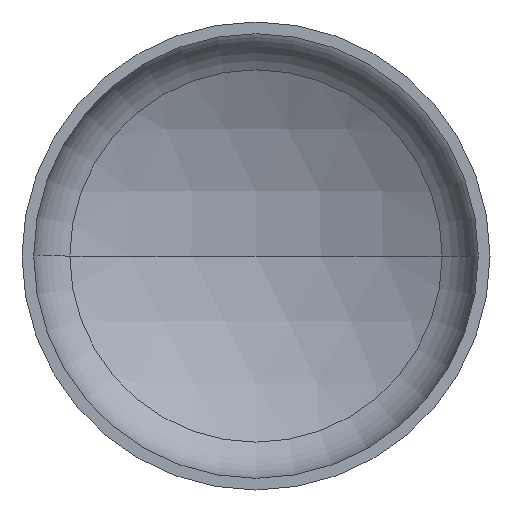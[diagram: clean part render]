
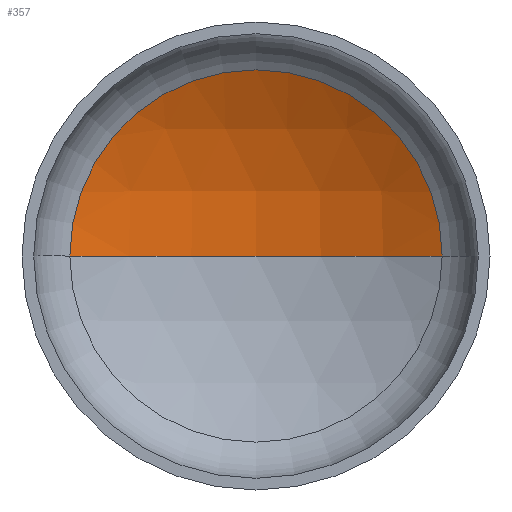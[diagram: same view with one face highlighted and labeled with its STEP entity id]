
A CAD part, front view. The second image highlights one B-rep face of the part: STEP entity #357.
In plain terms, the highlighted spherical face has radius 1120 mm.
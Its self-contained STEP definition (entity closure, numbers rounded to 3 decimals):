
#7 = VERTEX_POINT ( 'NONE', #266 ) ;
#8 = EDGE_LOOP ( 'NONE', ( #131, #116, #77 ) ) ;
#27 = AXIS2_PLACEMENT_3D ( 'NONE', #219, #220, #235 ) ;
#35 = AXIS2_PLACEMENT_3D ( 'NONE', #273, #405, #69 ) ;
#40 = AXIS2_PLACEMENT_3D ( 'NONE', #228, #226, #227 ) ;
#58 = VERTEX_POINT ( 'NONE', #301 ) ;
#69 = DIRECTION ( 'NONE',  ( -1., 0., 0. ) ) ;
#77 = ORIENTED_EDGE ( 'NONE', *, *, #86, .T. ) ;
#86 = EDGE_CURVE ( 'NONE', #58, #100, #331, .T. ) ;
#94 = DIRECTION ( 'NONE',  ( -1., 0., 0. ) ) ;
#100 = VERTEX_POINT ( 'NONE', #238 ) ;
#109 = AXIS2_PLACEMENT_3D ( 'NONE', #169, #196, #94 ) ;
#116 = ORIENTED_EDGE ( 'NONE', *, *, #126, .T. ) ;
#126 = EDGE_CURVE ( 'NONE', #7, #58, #323, .T. ) ;
#131 = ORIENTED_EDGE ( 'NONE', *, *, #156, .F. ) ;
#156 = EDGE_CURVE ( 'NONE', #7, #100, #208, .T. ) ;
#169 = CARTESIAN_POINT ( 'NONE',  ( 0., -675.191, 0. ) ) ;
#196 = DIRECTION ( 'NONE',  ( 0., 0., -1. ) ) ;
#208 = CIRCLE ( 'NONE', #27, 1120. ) ;
#219 = CARTESIAN_POINT ( 'NONE',  ( 0., -675.191, 0. ) ) ;
#220 = DIRECTION ( 'NONE',  ( 0., 0., 1. ) ) ;
#226 = DIRECTION ( 'NONE',  ( 0., -1., 0. ) ) ;
#227 = DIRECTION ( 'NONE',  ( 1., 0., 0. ) ) ;
#228 = CARTESIAN_POINT ( 'NONE',  ( 0., 296.537, 0. ) ) ;
#232 = SPHERICAL_SURFACE ( 'NONE', #109, 1120. ) ;
#235 = DIRECTION ( 'NONE',  ( 1., 0., 0. ) ) ;
#238 = CARTESIAN_POINT ( 'NONE',  ( -556.906, 296.537, 0. ) ) ;
#266 = CARTESIAN_POINT ( 'NONE',  ( 0., 444.809, 0. ) ) ;
#273 = CARTESIAN_POINT ( 'NONE',  ( 0., -675.191, 0. ) ) ;
#301 = CARTESIAN_POINT ( 'NONE',  ( 556.906, 296.537, 0. ) ) ;
#323 = CIRCLE ( 'NONE', #35, 1120. ) ;
#331 = CIRCLE ( 'NONE', #40, 556.906 ) ;
#355 = FACE_OUTER_BOUND ( 'NONE', #8, .T. ) ;
#357 = ADVANCED_FACE ( 'NONE', ( #355 ), #232, .F. ) ;
#405 = DIRECTION ( 'NONE',  ( 0., 0., -1. ) ) ;
